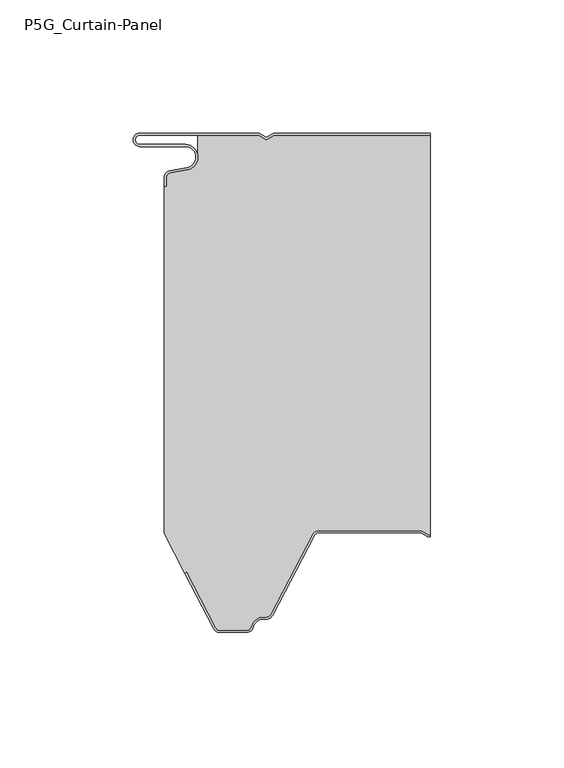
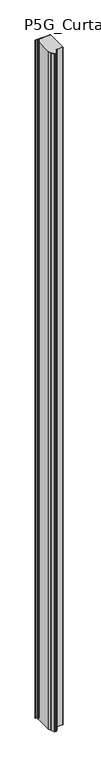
"""IFC4 building model written with IfcOpenShell, lengths in millimetres: plate geometry, P5G_Curtain-Panel : ACH_P5G_Rib-Roof-Panel_150M."""

from ifc_helpers import new_model, si_unit, frame, origin, place, context, project, spatial, polyline, circle_curve, source, transform, mapped, element, save
from ifc_brep_helpers import plane_surface, cylinder_surface, revolved_surface, advanced_brep


def p5g_curtain_panel_2fcde2e2(model_context):
    return source(origin(), model_context, "Body", "AdvancedBrep", [
        advanced_brep(
        [(-50.0, -16.636349, 5000.0), (-50.0, -20.0, 5000.0), (-49.2, -20.0, 5000.0), (-49.2, -16.636349, 5000.0), (-47.7125667, -14.863695, 5000.0), (-41.266489, -13.7270771, 5000.0), (-42.1, -4.2, 5000.0), (-59.1, -4.2, 5000.0), (-59.1, -0.8, 5000.0), (-14.5143588, -0.8, 5000.0), (-11.6, -2.4826072, 5000.0), (-8.6856412, -0.8, 5000.0), (50.0, -0.8, 5000.0), (50.0, 0.0, 5000.0), (-8.9000007, 0.0, 5000.0), (-11.6, -1.5588466, 5000.0), (-14.2999993, 0.0, 5000.0), (-59.1, 0.0, 5000.0), (-59.1, -5.0, 5000.0), (-42.1, -5.0, 5000.0), (-41.4054075, -12.939231, 5000.0), (-47.851485, -14.075848, 5000.0), (-50.0, -16.636349, 0.0), (-47.8514853, -14.0758488, 0.0), (-41.4054075, -12.9392309, 0.0), (-42.1, -5.0, 0.0), (-59.1, -5.0, 0.0), (-59.1, 0.0, 0.0), (-14.2999993, 0.0, 0.0), (-11.6, -1.5588466, 0.0), (-8.9000007, 0.0, 0.0), (50.0, 0.0, 0.0), (50.0, -0.8, 0.0), (-8.6856412, -0.8, 0.0), (-11.6, -2.4826072, 0.0), (-14.5143588, -0.8, 0.0), (-59.1, -0.8, 0.0), (-59.1, -4.2, 0.0), (-42.1, -4.2, 0.0), (-41.266489, -13.7270773, 0.0), (-47.7125665, -14.8636942, 0.0), (-49.2, -16.636349, 0.0), (-49.2, -20.0, 0.0), (-50.0, -20.0, 0.0)],
        [
            (0, 1),
            (1, 2),
            (2, 3),
            (3, 4, circle_curve(frame((-47.4, -16.636349, 5000.0), z_axis=(0.0, 0.0, -1.0), x_axis=(1.0, 0.0, 0.0)), 1.8)),
            (4, 5),
            (5, 6, circle_curve(frame((-42.1, -9.0, 5000.0), z_axis=(0.0, 0.0, 1.0), x_axis=(1.0, 0.0, 0.0)), 4.8)),
            (6, 7),
            (7, 8, circle_curve(frame((-59.1, -2.5, 5000.0), z_axis=(0.0, 0.0, -1.0), x_axis=(1.0, 0.0, 0.0)), 1.7)),
            (8, 9),
            (9, 10),
            (10, 11),
            (11, 12),
            (12, 13),
            (13, 14),
            (14, 15),
            (15, 16),
            (16, 17),
            (17, 18, circle_curve(frame((-59.1, -2.5, 5000.0), z_axis=(0.0, 0.0, 1.0), x_axis=(1.0, 0.0, 0.0)), 2.5)),
            (18, 19),
            (19, 20, circle_curve(frame((-42.1, -9.0, 5000.0), z_axis=(0.0, 0.0, -1.0), x_axis=(1.0, 0.0, 0.0)), 4.0)),
            (20, 21),
            (21, 0, circle_curve(frame((-47.4, -16.636349, 5000.0), z_axis=(0.0, 0.0, 1.0), x_axis=(1.0, 0.0, 0.0)), 2.6)),
            (22, 23, circle_curve(frame((-47.4, -16.636349, 0.0), z_axis=(0.0, 0.0, -1.0), x_axis=(1.0, 0.0, 0.0)), 2.6)),
            (23, 24),
            (24, 25, circle_curve(frame((-42.1, -9.0, 0.0), z_axis=(0.0, 0.0, 1.0), x_axis=(1.0, 0.0, 0.0)), 4.0)),
            (25, 26),
            (26, 27, circle_curve(frame((-59.1, -2.5, 0.0), z_axis=(0.0, 0.0, -1.0), x_axis=(1.0, 0.0, 0.0)), 2.5)),
            (27, 28),
            (28, 29),
            (29, 30),
            (30, 31),
            (31, 32),
            (32, 33),
            (33, 34),
            (34, 35),
            (35, 36),
            (36, 37, circle_curve(frame((-59.1, -2.5, 0.0), z_axis=(0.0, 0.0, 1.0), x_axis=(1.0, 0.0, 0.0)), 1.7)),
            (37, 38),
            (38, 39, circle_curve(frame((-42.1, -9.0, 0.0), z_axis=(0.0, 0.0, -1.0), x_axis=(1.0, 0.0, 0.0)), 4.8)),
            (39, 40),
            (40, 41, circle_curve(frame((-47.4, -16.636349, 0.0), z_axis=(0.0, 0.0, 1.0), x_axis=(1.0, 0.0, 0.0)), 1.8)),
            (41, 42),
            (42, 43),
            (43, 22),
            (0, 22),
            (43, 1),
            (42, 2),
            (41, 3),
            (40, 4),
            (39, 5),
            (38, 6),
            (37, 7),
            (36, 8),
            (35, 9),
            (34, 10),
            (33, 11),
            (32, 12),
            (30, 14),
            (13, 31),
            (29, 15),
            (28, 16),
            (27, 17),
            (26, 18),
            (25, 19),
            (24, 20),
            (23, 21),
        ],
        [
            plane_surface(frame((-50.0, 0.0, 5000.0), z_axis=(0.0, 0.0, 1.0), x_axis=(0.0, 1.0, 0.0))),
            plane_surface(frame((-50.0, 0.0, 0.0), z_axis=(0.0, 0.0, -1.0), x_axis=(0.0, 1.0, 0.0))),
            plane_surface(frame((-50.0, -16.636349, 5000.0), z_axis=(-1.0, 0.0, 0.0), x_axis=(0.0, 0.0, -1.0))),
            plane_surface(frame((-50.0, -20.0, 5000.0), z_axis=(0.0, -1.0, 0.0), x_axis=(0.0, 0.0, -1.0))),
            plane_surface(frame((-49.2, -20.0, 5000.0), z_axis=(1.0, 0.0, 0.0), x_axis=(0.0, 0.0, -1.0))),
            revolved_surface(polyline([(-45.6, -16.636349, 0.0), (-45.6, -16.636349, 5000.0)]), (-47.4, -16.636349, 5000.0), (0.0, 0.0, -1.0)),
            plane_surface(frame((-47.7125665, -14.8636942, 5000.0), z_axis=(0.17364813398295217, -0.9848077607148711, 0.0), x_axis=(0.0, 0.0, -1.0))),
            cylinder_surface(frame((-42.1, -9.0, 5000.0), z_axis=(0.0, 0.0, 1.0), x_axis=(1.0, 0.0, 0.0)), 4.8),
            plane_surface(frame((-42.1, -4.2, 5000.0), z_axis=(0.0, 1.0, 0.0), x_axis=(0.0, 0.0, -1.0))),
            revolved_surface(polyline([(-57.4, -2.5, 0.0), (-57.4, -2.5, 5000.0)]), (-59.1, -2.5, 5000.0), (0.0, 0.0, -1.0)),
            plane_surface(frame((-59.1, -0.8, 5000.0), z_axis=(0.0, -1.0, 0.0), x_axis=(0.0, 0.0, -1.0))),
            plane_surface(frame((-14.5143588, -0.8, 5000.0), z_axis=(-0.5000003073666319, -0.8660252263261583, 0.0), x_axis=(0.0, 0.0, -1.0))),
            plane_surface(frame((-11.6, -2.4826072, 5000.0), z_axis=(0.5000003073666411, -0.866025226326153, 0.0), x_axis=(0.0, 0.0, -1.0))),
            plane_surface(frame((-8.6856412, -0.8, 5000.0), z_axis=(0.0, -1.0, 0.0), x_axis=(0.0, 0.0, -1.0))),
            plane_surface(frame((85.7000007, 0.0, 5000.0), z_axis=(0.0, 1.0, 0.0), x_axis=(0.0, 0.0, -1.0))),
            plane_surface(frame((-8.9000007, 0.0, 5000.0), z_axis=(-0.5000003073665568, 0.8660252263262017, 0.0), x_axis=(0.0, 0.0, -1.0))),
            plane_surface(frame((-11.6, -1.5588466, 5000.0), z_axis=(0.5000003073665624, 0.8660252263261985, 0.0), x_axis=(0.0, 0.0, -1.0))),
            plane_surface(frame((-14.2999993, 0.0, 5000.0), z_axis=(0.0, 1.0, 0.0), x_axis=(0.0, 0.0, -1.0))),
            cylinder_surface(frame((-59.1, -2.5, 5000.0), z_axis=(0.0, 0.0, 1.0), x_axis=(1.0, 0.0, 0.0)), 2.5),
            plane_surface(frame((-59.1, -5.0, 5000.0), z_axis=(0.0, -1.0, 0.0), x_axis=(0.0, 0.0, -1.0))),
            revolved_surface(polyline([(-38.1, -9.0, 0.0), (-38.1, -9.0, 5000.0)]), (-42.1, -9.0, 5000.0), (0.0, 0.0, -1.0)),
            plane_surface(frame((-41.4054075, -12.9392309, 5000.0), z_axis=(-0.17364813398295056, 0.9848077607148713, 0.0), x_axis=(0.0, 0.0, -1.0))),
            cylinder_surface(frame((-47.4, -16.636349, 5000.0), z_axis=(0.0, 0.0, 1.0), x_axis=(1.0, 0.0, 0.0)), 2.6),
            plane_surface(frame((50.0, 0.0, 5000.0), z_axis=(1.0, 0.0, 0.0), x_axis=(0.0, 0.0, -1.0))),
        ],
        [
            (0, [[1, 2, 3, 4, 5, 6, 7, 8, 9, 10, 11, 12, 13, 14, 15, 16, 17, 18, 19, 20, 21, 22]]),
            (1, [[23, 24, 25, 26, 27, 28, 29, 30, 31, 32, 33, 34, 35, 36, 37, 38, 39, 40, 41, 42, 43, 44]]),
            (2, [[-1, 45, -44, 46]]),
            (3, [[-2, -46, -43, 47]]),
            (4, [[-3, -47, -42, 48]]),
            (5, [[-4, -48, -41, 49]]),
            (6, [[-5, -49, -40, 50]]),
            (7, [[-6, -50, -39, 51]]),
            (8, [[-7, -51, -38, 52]]),
            (9, [[-8, -52, -37, 53]]),
            (10, [[-9, -53, -36, 54]]),
            (11, [[-10, -54, -35, 55]]),
            (12, [[-11, -55, -34, 56]]),
            (13, [[-56, -33, 57, -12]]),
            (14, [[58, -14, 59, -31]]),
            (15, [[-15, -58, -30, 60]]),
            (16, [[-16, -60, -29, 61]]),
            (17, [[-17, -61, -28, 62]]),
            (18, [[-18, -62, -27, 63]]),
            (19, [[-19, -63, -26, 64]]),
            (20, [[-20, -64, -25, 65]]),
            (21, [[-21, -65, -24, 66]]),
            (22, [[-22, -66, -23, -45]]),
            (23, [[-13, -57, -32, -59]]),
        ],
    ),
        advanced_brep(
        [(-30.6207387, -185.6314818, 0.0), (-41.5569015, -164.6340495, 0.0), (-42.1499858, -165.2271753, 0.0), (-50.0, -150.1551481, 0.0), (-50.0, -20.0, 0.0), (-49.2, -20.0, 0.0), (-49.2, -16.636349, 0.0), (-47.7125653, -14.8636948, 0.0), (-41.2664891, -13.7270773, 0.0), (-37.3182654, -8.5816526, 0.0), (-37.3182654, -0.8, 0.0), (-14.5143588, -0.8, 0.0), (-11.6, -2.4826072, 0.0), (-8.6856412, -0.8, 0.0), (50.0, -0.8, 0.0), (50.0, -150.7, 0.0), (49.2107961, -150.7, 0.0), (46.6127185, -149.2, 0.0), (8.090871, -149.2, 0.0), (5.6075115, -150.7065836, 0.0), (-9.9783733, -180.6314825, 0.0), (-11.574819, -181.6, 0.0), (-12.6272901, -181.6, 0.0), (-17.2841077, -185.2363636, 0.0), (-19.030414, -186.5999997, 0.0), (-29.024293, -186.5999997, 0.0), (-30.6207383, -185.6314813, 5000.0), (-29.024293, -186.5999997, 5000.0), (-19.030414, -186.5999997, 5000.0), (-17.2841077, -185.2363636, 5000.0), (-12.6272901, -181.6, 5000.0), (-11.574819, -181.6, 5000.0), (-9.9783737, -180.631482, 5000.0), (5.6075107, -150.7065835, 5000.0), (8.090871, -149.2, 5000.0), (46.6127185, -149.2, 5000.0), (49.2107961, -150.7, 5000.0), (50.0, -150.7, 5000.0), (50.0, -0.8, 5000.0), (-8.6856412, -0.8, 5000.0), (-11.6, -2.4826072, 5000.0), (-14.5143588, -0.8, 5000.0), (-37.3182654, -0.8, 5000.0), (-37.3182654, -8.5816526, 5000.0), (-41.2664891, -13.7270773, 5000.0), (-47.7125651, -14.863694, 5000.0), (-49.2, -16.636349, 5000.0), (-49.2, -20.0, 5000.0), (-50.0, -20.0, 5000.0), (-50.0, -150.1551481, 5000.0), (-42.1499858, -165.2271753, 5000.0), (-41.5569015, -164.6340495, 5000.0)],
        [
            (0, 1),
            (1, 2),
            (2, 3),
            (3, 4),
            (4, 5),
            (5, 6),
            (6, 7, circle_curve(frame((-47.4, -16.636349, 0.0), z_axis=(0.0, 0.0, -1.0), x_axis=(-1.0, 0.0, 0.0)), 1.8)),
            (7, 8),
            (8, 9, circle_curve(frame((-42.1, -9.0, 0.0), z_axis=(0.0, 0.0, 1.0), x_axis=(-1.0, 0.0, 0.0)), 4.8)),
            (9, 10),
            (10, 11),
            (11, 12),
            (12, 13),
            (13, 14),
            (14, 15),
            (15, 16),
            (16, 17),
            (17, 18),
            (18, 19, circle_curve(frame((8.090871, -152.0, 0.0), z_axis=(0.0, 0.0, 1.0), x_axis=(-1.0, 0.0, 0.0)), 2.8)),
            (19, 20),
            (20, 21, circle_curve(frame((-11.574819, -179.8, 0.0), z_axis=(0.0, 0.0, -1.0), x_axis=(-1.0, 0.0, 0.0)), 1.8)),
            (21, 22),
            (22, 23, circle_curve(frame((-12.6272901, -186.4, 0.0), z_axis=(0.0, 0.0, 1.0), x_axis=(-1.0, 0.0, 0.0)), 4.8)),
            (23, 24, circle_curve(frame((-19.030414, -184.8, 0.0), z_axis=(0.0, 0.0, -1.0), x_axis=(-1.0, 0.0, 0.0)), 1.7999997)),
            (24, 25),
            (25, 0, circle_curve(frame((-29.024293, -184.8, 0.0), z_axis=(0.0, 0.0, -1.0), x_axis=(-1.0, 0.0, 0.0)), 1.7999997)),
            (26, 27, circle_curve(frame((-29.024293, -184.8, 5000.0), z_axis=(0.0, 0.0, 1.0), x_axis=(-1.0, 0.0, 0.0)), 1.7999997)),
            (27, 28),
            (28, 29, circle_curve(frame((-19.030414, -184.8, 5000.0), z_axis=(0.0, 0.0, 1.0), x_axis=(-1.0, 0.0, 0.0)), 1.7999997)),
            (29, 30, circle_curve(frame((-12.6272901, -186.4, 5000.0), z_axis=(0.0, 0.0, -1.0), x_axis=(-1.0, 0.0, 0.0)), 4.8)),
            (30, 31),
            (31, 32, circle_curve(frame((-11.574819, -179.8, 5000.0), z_axis=(0.0, 0.0, 1.0), x_axis=(-1.0, 0.0, 0.0)), 1.8)),
            (32, 33),
            (33, 34, circle_curve(frame((8.090871, -152.0, 5000.0), z_axis=(0.0, 0.0, -1.0), x_axis=(-1.0, 0.0, 0.0)), 2.8)),
            (34, 35),
            (35, 36),
            (36, 37),
            (37, 38),
            (38, 39),
            (39, 40),
            (40, 41),
            (41, 42),
            (42, 43),
            (43, 44, circle_curve(frame((-42.1, -9.0, 5000.0), z_axis=(0.0, 0.0, -1.0), x_axis=(-1.0, 0.0, 0.0)), 4.8)),
            (44, 45),
            (45, 46, circle_curve(frame((-47.4, -16.636349, 5000.0), z_axis=(0.0, 0.0, 1.0), x_axis=(-1.0, 0.0, 0.0)), 1.8)),
            (46, 47),
            (47, 48),
            (48, 49),
            (49, 50),
            (50, 51),
            (51, 26),
            (0, 26),
            (51, 1),
            (50, 2),
            (49, 3),
            (48, 4),
            (47, 5),
            (46, 6),
            (45, 7),
            (44, 8),
            (43, 9),
            (42, 10),
            (41, 11),
            (40, 12),
            (39, 13),
            (38, 14),
            (36, 16),
            (15, 37),
            (35, 17),
            (34, 18),
            (33, 19),
            (32, 20),
            (31, 21),
            (30, 22),
            (29, 23),
            (28, 24),
            (27, 25),
        ],
        [
            plane_surface(frame((-50.0, 0.0, 0.0), z_axis=(0.0, 0.0, -1.0), x_axis=(0.0, 1.0, 0.0))),
            plane_surface(frame((-50.0, 0.0, 5000.0), z_axis=(0.0, 0.0, 1.0), x_axis=(0.0, 1.0, 0.0))),
            plane_surface(frame((-30.6207387, -185.6314818, 0.0), z_axis=(-0.8869140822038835, -0.4619344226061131, 0.0), x_axis=(0.0, 0.0, 1.0))),
            plane_surface(frame((-41.5569015, -164.6340495, 0.0), z_axis=(0.7071314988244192, -0.7070820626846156, 0.0), x_axis=(0.0, 0.0, 1.0))),
            plane_surface(frame((-42.1499858, -165.2271753, 0.0), z_axis=(-0.8869140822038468, -0.46193442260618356, 0.0), x_axis=(0.0, 0.0, 1.0))),
            plane_surface(frame((-50.0, -150.1551481, 0.0), z_axis=(-1.0, 0.0, 0.0), x_axis=(0.0, 0.0, 1.0))),
            plane_surface(frame((-50.0, -20.0, 0.0), z_axis=(0.0, 1.0, 0.0), x_axis=(0.0, 0.0, 1.0))),
            plane_surface(frame((-49.2, -20.0, 0.0), z_axis=(-1.0, 0.0, 0.0), x_axis=(0.0, 0.0, 1.0))),
            cylinder_surface(frame((-47.4, -16.636349, 0.0), z_axis=(0.0, 0.0, -1.0), x_axis=(-1.0, 0.0, 0.0)), 1.8),
            plane_surface(frame((-47.7125651, -14.863694, 0.0), z_axis=(-0.17364811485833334, 0.9848077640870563, 0.0), x_axis=(0.0, 0.0, 1.0))),
            revolved_surface(polyline([(-46.9, -9.0, 5000.0), (-46.9, -9.0, 0.0)]), (-42.1, -9.0, 0.0), (0.0, 0.0, 1.0)),
            plane_surface(frame((-37.3182654, -8.5816526, 0.0), z_axis=(-1.0, 0.0, 0.0), x_axis=(0.0, 0.0, 1.0))),
            plane_surface(frame((-37.3182654, -0.8, 0.0), z_axis=(0.0, 1.0, 0.0), x_axis=(0.0, 0.0, 1.0))),
            plane_surface(frame((-14.5143588, -0.8, 0.0), z_axis=(0.500000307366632, 0.8660252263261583, 0.0), x_axis=(0.0, 0.0, 1.0))),
            plane_surface(frame((-11.6, -2.4826072, 0.0), z_axis=(-0.500000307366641, 0.8660252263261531, 0.0), x_axis=(0.0, 0.0, 1.0))),
            plane_surface(frame((-8.6856412, -0.8, 0.0), z_axis=(0.0, 1.0, 0.0), x_axis=(0.0, 0.0, 1.0))),
            plane_surface(frame((81.5859248, -150.7, 0.0), z_axis=(0.0, -1.0, 0.0), x_axis=(0.0, 0.0, 1.0))),
            plane_surface(frame((49.2107961, -150.7, 0.0), z_axis=(-0.4999997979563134, -0.8660255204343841, 0.0), x_axis=(0.0, 0.0, 1.0))),
            plane_surface(frame((46.6127185, -149.2, 0.0), z_axis=(0.0, -1.0, 0.0), x_axis=(0.0, 0.0, 1.0))),
            revolved_surface(polyline([(5.290871, -152.0, 5000.0), (5.290871, -152.0, 0.0)]), (8.090871, -152.0, 0.0), (0.0, 0.0, 1.0)),
            plane_surface(frame((5.6075107, -150.7065835, 0.0), z_axis=(0.886914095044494, -0.46193439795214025, 0.0), x_axis=(0.0, 0.0, 1.0))),
            cylinder_surface(frame((-11.574819, -179.8, 0.0), z_axis=(0.0, 0.0, -1.0), x_axis=(-1.0, 0.0, 0.0)), 1.8),
            plane_surface(frame((-11.574819, -181.6, 0.0), z_axis=(0.0, -1.0, 0.0), x_axis=(0.0, 0.0, 1.0))),
            revolved_surface(polyline([(-17.4272901, -186.4, 5000.0), (-17.4272901, -186.4, 0.0)]), (-12.6272901, -186.4, 0.0), (0.0, 0.0, 1.0)),
            cylinder_surface(frame((-19.030414, -184.8, 0.0), z_axis=(0.0, 0.0, -1.0), x_axis=(-1.0, 0.0, 0.0)), 1.7999997),
            plane_surface(frame((-19.030414, -186.5999997, 0.0), z_axis=(0.0, -1.0, 0.0), x_axis=(0.0, 0.0, 1.0))),
            cylinder_surface(frame((-29.024293, -184.8, 0.0), z_axis=(0.0, 0.0, -1.0), x_axis=(-1.0, 0.0, 0.0)), 1.7999997),
            plane_surface(frame((50.0, 0.0, 5000.0), z_axis=(1.0, 0.0, 0.0), x_axis=(0.0, 0.0, -1.0))),
        ],
        [
            (0, [[1, 2, 3, 4, 5, 6, 7, 8, 9, 10, 11, 12, 13, 14, 15, 16, 17, 18, 19, 20, 21, 22, 23, 24, 25, 26]]),
            (1, [[27, 28, 29, 30, 31, 32, 33, 34, 35, 36, 37, 38, 39, 40, 41, 42, 43, 44, 45, 46, 47, 48, 49, 50, 51, 52]]),
            (2, [[-1, 53, -52, 54]]),
            (3, [[-2, -54, -51, 55]]),
            (4, [[-3, -55, -50, 56]]),
            (5, [[-4, -56, -49, 57]]),
            (6, [[-5, -57, -48, 58]]),
            (7, [[-6, -58, -47, 59]]),
            (8, [[-7, -59, -46, 60]]),
            (9, [[-8, -60, -45, 61]]),
            (10, [[-9, -61, -44, 62]]),
            (11, [[-10, -62, -43, 63]]),
            (12, [[-11, -63, -42, 64]]),
            (13, [[-12, -64, -41, 65]]),
            (14, [[-13, -65, -40, 66]]),
            (15, [[-66, -39, 67, -14]]),
            (16, [[68, -16, 69, -37]]),
            (17, [[-17, -68, -36, 70]]),
            (18, [[-18, -70, -35, 71]]),
            (19, [[-19, -71, -34, 72]]),
            (20, [[-20, -72, -33, 73]]),
            (21, [[-21, -73, -32, 74]]),
            (22, [[-22, -74, -31, 75]]),
            (23, [[-23, -75, -30, 76]]),
            (24, [[-24, -76, -29, 77]]),
            (25, [[-25, -77, -28, 78]]),
            (26, [[-26, -78, -27, -53]]),
            (27, [[-15, -67, -38, -69]]),
        ],
    ),
        advanced_brep(
        [(49.2107962, -150.7, 5000.0), (46.6127186, -149.2, 5000.0), (8.090871, -149.2, 5000.0), (5.6075116, -150.7065836, 5000.0), (-9.9783733, -180.6314825, 5000.0), (-11.574819, -181.6, 5000.0), (-12.62729, -181.6, 5000.0), (-17.2841076, -185.2363636, 5000.0), (-19.030414, -186.6, 5000.0), (-29.024293, -186.6, 5000.0), (-30.6207383, -185.631482, 5000.0), (-41.5569015, -164.6340495, 5000.0), (-42.15, -165.227148, 5000.0), (-31.33027, -186.00103, 5000.0), (-29.024293, -187.4, 5000.0), (-19.030414, -187.4, 5000.0), (-16.5079711, -185.4303031, 5000.0), (-12.62729, -182.4, 5000.0), (-11.574819, -182.4, 5000.0), (-9.2688424, -181.0010295, 5000.0), (6.317042, -151.076131, 5000.0), (8.090871, -150.0, 5000.0), (46.3983593, -150.0, 5000.0), (48.9964369, -151.5, 5000.0), (50.0, -151.5, 5000.0), (50.0, -150.7, 5000.0), (48.9964369, -151.5, 0.0), (46.3983593, -150.0, 0.0), (8.090871, -150.0, 0.0), (6.3170428, -151.0761312, 0.0), (-9.268842, -181.00103, 0.0), (-11.574819, -182.4, 0.0), (-12.62729, -182.4, 0.0), (-16.5079713, -185.430303, 0.0), (-19.030414, -187.4, 0.0), (-29.024293, -187.4, 0.0), (-31.3302696, -186.0010295, 0.0), (-42.15, -165.227148, 0.0), (-41.5569015, -164.6340495, 0.0), (-30.6207387, -185.6314825, 0.0), (-29.024293, -186.6, 0.0), (-19.030414, -186.6, 0.0), (-17.2841074, -185.2363637, 0.0), (-12.62729, -181.6, 0.0), (-11.574819, -181.6, 0.0), (-9.9783737, -180.631482, 0.0), (5.6075107, -150.7065835, 0.0), (8.090871, -149.2, 0.0), (46.6127186, -149.2, 0.0), (49.2107962, -150.7, 0.0), (50.0, -150.7, 0.0), (50.0, -151.5, 0.0)],
        [
            (0, 1),
            (1, 2),
            (2, 3, circle_curve(frame((8.090871, -152.0, 5000.0), z_axis=(0.0, 0.0, 1.0), x_axis=(1.0, 0.0, 0.0)), 2.8)),
            (3, 4),
            (4, 5, circle_curve(frame((-11.574819, -179.8, 5000.0), z_axis=(0.0, 0.0, -1.0), x_axis=(1.0, 0.0, 0.0)), 1.8)),
            (5, 6),
            (6, 7, circle_curve(frame((-12.62729, -186.4, 5000.0), z_axis=(0.0, 0.0, 1.0), x_axis=(1.0, 0.0, 0.0)), 4.8)),
            (7, 8, circle_curve(frame((-19.030414, -184.8, 5000.0), z_axis=(0.0, 0.0, -1.0), x_axis=(1.0, 0.0, 0.0)), 1.8)),
            (8, 9),
            (9, 10, circle_curve(frame((-29.024293, -184.8, 5000.0), z_axis=(0.0, 0.0, -1.0), x_axis=(1.0, 0.0, 0.0)), 1.8)),
            (10, 11),
            (11, 12),
            (12, 13),
            (13, 14, circle_curve(frame((-29.024293, -184.8, 5000.0), z_axis=(0.0, 0.0, 1.0), x_axis=(1.0, 0.0, 0.0)), 2.6)),
            (14, 15),
            (15, 16, circle_curve(frame((-19.030414, -184.8, 5000.0), z_axis=(0.0, 0.0, 1.0), x_axis=(1.0, 0.0, 0.0)), 2.6)),
            (16, 17, circle_curve(frame((-12.62729, -186.4, 5000.0), z_axis=(0.0, 0.0, -1.0), x_axis=(1.0, 0.0, 0.0)), 4.0)),
            (17, 18),
            (18, 19, circle_curve(frame((-11.574819, -179.8, 5000.0), z_axis=(0.0, 0.0, 1.0), x_axis=(1.0, 0.0, 0.0)), 2.6)),
            (19, 20),
            (20, 21, circle_curve(frame((8.090871, -152.0, 5000.0), z_axis=(0.0, 0.0, -1.0), x_axis=(1.0, 0.0, 0.0)), 2.0)),
            (21, 22),
            (22, 23),
            (23, 24),
            (24, 25),
            (25, 0),
            (26, 27),
            (27, 28),
            (28, 29, circle_curve(frame((8.090871, -152.0, 0.0), z_axis=(0.0, 0.0, 1.0), x_axis=(1.0, 0.0, 0.0)), 2.0)),
            (29, 30),
            (30, 31, circle_curve(frame((-11.574819, -179.8, 0.0), z_axis=(0.0, 0.0, -1.0), x_axis=(1.0, 0.0, 0.0)), 2.6)),
            (31, 32),
            (32, 33, circle_curve(frame((-12.62729, -186.4, 0.0), z_axis=(0.0, 0.0, 1.0), x_axis=(1.0, 0.0, 0.0)), 4.0)),
            (33, 34, circle_curve(frame((-19.030414, -184.8, 0.0), z_axis=(0.0, 0.0, -1.0), x_axis=(1.0, 0.0, 0.0)), 2.6)),
            (34, 35),
            (35, 36, circle_curve(frame((-29.024293, -184.8, 0.0), z_axis=(0.0, 0.0, -1.0), x_axis=(1.0, 0.0, 0.0)), 2.6)),
            (36, 37),
            (37, 38),
            (38, 39),
            (39, 40, circle_curve(frame((-29.024293, -184.8, 0.0), z_axis=(0.0, 0.0, 1.0), x_axis=(1.0, 0.0, 0.0)), 1.8)),
            (40, 41),
            (41, 42, circle_curve(frame((-19.030414, -184.8, 0.0), z_axis=(0.0, 0.0, 1.0), x_axis=(1.0, 0.0, 0.0)), 1.8)),
            (42, 43, circle_curve(frame((-12.62729, -186.4, 0.0), z_axis=(0.0, 0.0, -1.0), x_axis=(1.0, 0.0, 0.0)), 4.8)),
            (43, 44),
            (44, 45, circle_curve(frame((-11.574819, -179.8, 0.0), z_axis=(0.0, 0.0, 1.0), x_axis=(1.0, 0.0, 0.0)), 1.8)),
            (45, 46),
            (46, 47, circle_curve(frame((8.090871, -152.0, 0.0), z_axis=(0.0, 0.0, -1.0), x_axis=(1.0, 0.0, 0.0)), 2.8)),
            (47, 48),
            (48, 49),
            (49, 50),
            (50, 51),
            (51, 26),
            (49, 0),
            (25, 50),
            (48, 1),
            (47, 2),
            (46, 3),
            (45, 4),
            (44, 5),
            (43, 6),
            (42, 7),
            (41, 8),
            (40, 9),
            (39, 10),
            (38, 11),
            (37, 12),
            (36, 13),
            (35, 14),
            (34, 15),
            (33, 16),
            (32, 17),
            (31, 18),
            (30, 19),
            (29, 20),
            (28, 21),
            (27, 22),
            (26, 23),
            (51, 24),
        ],
        [
            plane_surface(frame((-50.0, -150.0, 5000.0), z_axis=(0.0, 0.0, 1.0), x_axis=(0.0, 1.0, 0.0))),
            plane_surface(frame((-50.0, -150.0, 0.0), z_axis=(0.0, 0.0, -1.0), x_axis=(0.0, 1.0, 0.0))),
            plane_surface(frame((81.5859248, -150.7, 5000.0), z_axis=(0.0, 1.0, 0.0), x_axis=(0.0, 0.0, -1.0))),
            plane_surface(frame((49.2107962, -150.7, 5000.0), z_axis=(0.4999997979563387, 0.8660255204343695, 0.0), x_axis=(0.0, 0.0, -1.0))),
            plane_surface(frame((46.6127186, -149.2, 5000.0), z_axis=(0.0, 1.0, 0.0), x_axis=(0.0, 0.0, -1.0))),
            cylinder_surface(frame((8.090871, -152.0, 5000.0), z_axis=(0.0, 0.0, 1.0), x_axis=(1.0, 0.0, 0.0)), 2.8),
            plane_surface(frame((5.6075107, -150.7065835, 5000.0), z_axis=(-0.8869140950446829, 0.4619343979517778, 0.0), x_axis=(0.0, 0.0, -1.0))),
            revolved_surface(polyline([(-9.774818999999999, -179.8, 0.0), (-9.774818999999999, -179.8, 5000.0)]), (-11.574819, -179.8, 5000.0), (0.0, 0.0, -1.0)),
            plane_surface(frame((-11.574819, -181.6, 5000.0), z_axis=(0.0, 1.0, 0.0), x_axis=(0.0, 0.0, -1.0))),
            cylinder_surface(frame((-12.62729, -186.4, 5000.0), z_axis=(0.0, 0.0, 1.0), x_axis=(1.0, 0.0, 0.0)), 4.8),
            revolved_surface(polyline([(-17.230414, -184.8, 0.0), (-17.230414, -184.8, 5000.0)]), (-19.030414, -184.8, 5000.0), (0.0, 0.0, -1.0)),
            plane_surface(frame((-19.030414, -186.6, 5000.0), z_axis=(0.0, 1.0, 0.0), x_axis=(0.0, 0.0, -1.0))),
            revolved_surface(polyline([(-27.224293, -184.8, 0.0), (-27.224293, -184.8, 5000.0)]), (-29.024293, -184.8, 5000.0), (0.0, 0.0, -1.0)),
            plane_surface(frame((-30.6207387, -185.6314825, 5000.0), z_axis=(0.8869140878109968, 0.46193441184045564, 0.0), x_axis=(0.0, 0.0, -1.0))),
            plane_surface(frame((-41.5569015, -164.6340495, 5000.0), z_axis=(-0.7071067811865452, 0.7071067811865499, 0.0), x_axis=(0.0, 0.0, -1.0))),
            plane_surface(frame((-42.15, -165.227148, 5000.0), z_axis=(-0.8869140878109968, -0.46193441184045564, 0.0), x_axis=(0.0, 0.0, -1.0))),
            cylinder_surface(frame((-29.024293, -184.8, 5000.0), z_axis=(0.0, 0.0, 1.0), x_axis=(1.0, 0.0, 0.0)), 2.6),
            plane_surface(frame((-29.024293, -187.4, 5000.0), z_axis=(0.0, -1.0, 0.0), x_axis=(0.0, 0.0, -1.0))),
            cylinder_surface(frame((-19.030414, -184.8, 5000.0), z_axis=(0.0, 0.0, 1.0), x_axis=(1.0, 0.0, 0.0)), 2.6),
            revolved_surface(polyline([(-8.62729, -186.4, 0.0), (-8.62729, -186.4, 5000.0)]), (-12.62729, -186.4, 5000.0), (0.0, 0.0, -1.0)),
            plane_surface(frame((-12.62729, -182.4, 5000.0), z_axis=(0.0, -1.0, 0.0), x_axis=(0.0, 0.0, -1.0))),
            cylinder_surface(frame((-11.574819, -179.8, 5000.0), z_axis=(0.0, 0.0, 1.0), x_axis=(1.0, 0.0, 0.0)), 2.6),
            plane_surface(frame((-9.268842, -181.00103, 5000.0), z_axis=(0.8869140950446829, -0.4619343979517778, 0.0), x_axis=(0.0, 0.0, -1.0))),
            revolved_surface(polyline([(10.090871, -152.0, 0.0), (10.090871, -152.0, 5000.0)]), (8.090871, -152.0, 5000.0), (0.0, 0.0, -1.0)),
            plane_surface(frame((8.090871, -150.0, 5000.0), z_axis=(0.0, -1.0, 0.0), x_axis=(0.0, 0.0, -1.0))),
            plane_surface(frame((46.3983593, -150.0, 5000.0), z_axis=(-0.4999997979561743, -0.8660255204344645, 0.0), x_axis=(0.0, 0.0, -1.0))),
            plane_surface(frame((48.9964369, -151.5, 5000.0), z_axis=(0.0, -1.0, 0.0), x_axis=(0.0, 0.0, -1.0))),
            plane_surface(frame((50.0, 0.0, 5000.0), z_axis=(1.0, 0.0, 0.0), x_axis=(0.0, 0.0, -1.0))),
        ],
        [
            (0, [[1, 2, 3, 4, 5, 6, 7, 8, 9, 10, 11, 12, 13, 14, 15, 16, 17, 18, 19, 20, 21, 22, 23, 24, 25, 26]]),
            (1, [[27, 28, 29, 30, 31, 32, 33, 34, 35, 36, 37, 38, 39, 40, 41, 42, 43, 44, 45, 46, 47, 48, 49, 50, 51, 52]]),
            (2, [[53, -26, 54, -50]]),
            (3, [[-1, -53, -49, 55]]),
            (4, [[-2, -55, -48, 56]]),
            (5, [[-3, -56, -47, 57]]),
            (6, [[-4, -57, -46, 58]]),
            (7, [[-5, -58, -45, 59]]),
            (8, [[-6, -59, -44, 60]]),
            (9, [[-7, -60, -43, 61]]),
            (10, [[-8, -61, -42, 62]]),
            (11, [[-9, -62, -41, 63]]),
            (12, [[-10, -63, -40, 64]]),
            (13, [[-11, -64, -39, 65]]),
            (14, [[-12, -65, -38, 66]]),
            (15, [[-13, -66, -37, 67]]),
            (16, [[-14, -67, -36, 68]]),
            (17, [[-15, -68, -35, 69]]),
            (18, [[-16, -69, -34, 70]]),
            (19, [[-17, -70, -33, 71]]),
            (20, [[-18, -71, -32, 72]]),
            (21, [[-19, -72, -31, 73]]),
            (22, [[-20, -73, -30, 74]]),
            (23, [[-21, -74, -29, 75]]),
            (24, [[-22, -75, -28, 76]]),
            (25, [[-23, -76, -27, 77]]),
            (26, [[-77, -52, 78, -24]]),
            (27, [[-25, -78, -51, -54]]),
        ],
    ),
    ])


if __name__ == "__main__":
    model = new_model("IFC4")
    model_context = context("Model", 3, world=origin())
    ifc_project = project(units=[si_unit("LENGTHUNIT", "METRE", prefix="MILLI")], contexts=[model_context])
    site = spatial("IfcSite", under=ifc_project)
    building = spatial("IfcBuilding", under=site)
    placement = place(None, origin())
    p5g_curtain_panel_shape = p5g_curtain_panel_2fcde2e2(model_context)
    element("IfcPlate", 1, ObjectType="P5G_Curtain-Panel : ACH_P5G_Rib-Roof-Panel_150M", at=placement, inside=building, context=model_context, shape_type="MappedRepresentation", body=[
        mapped(p5g_curtain_panel_shape, transform((0.0, 0.0, 0.0), x_axis=(1.0, 0.0, 0.0), y_axis=(0.0, 1.0, 0.0), z_axis=(0.0, 0.0, 1.0))),
    ])
    save(model, "model.ifc")
